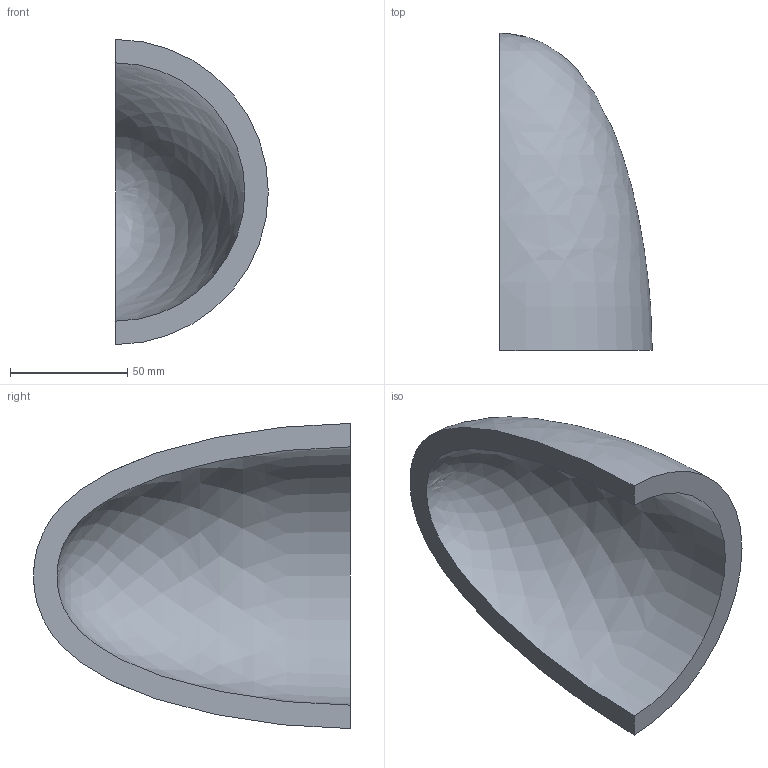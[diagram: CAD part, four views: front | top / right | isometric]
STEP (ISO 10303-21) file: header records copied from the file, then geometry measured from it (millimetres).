
FILE_DESCRIPTION(('CATIA V5 STEP Exchange'),'2;1');
FILE_NAME('C:\_Andres\UNIVERSIDAD\IQS\ASIGNATURAS\DAO\EXF\EXF-16172c\2inicio\Uria_Ciurana_Ej10_v35.stp','2017-03-05T22:31:16+00:00',('none'),('none'),'CATIA Version 5-6 Release 2014 SP1 HF18','CATIA V5 STEP AP203','none');
FILE_SCHEMA(('CONFIG_CONTROL_DESIGN'));
Length unit declared in the file: millimetre
Products named in the file (1): Uria_Ciurana_Ej10_v35
Bounding box: 65 x 135 x 130 mm (x, y, z)
Volume: 210964.1 mm3; surface area: 47297.1 mm2
Topology: 1 solids, 1 shells, 4 faces, 10 edges, 6 vertices
Faces by surface type: revolution 2, plane 2
Entity records: 254 total; most frequent: CARTESIAN_POINT 132, ORIENTED_EDGE 16, DIRECTION 10, EDGE_CURVE 8, B_SPLINE_CURVE_WITH_KNOTS 6, VERTEX_POINT 6, AXIS2_PLACEMENT_3D 5, ADVANCED_FACE 4
